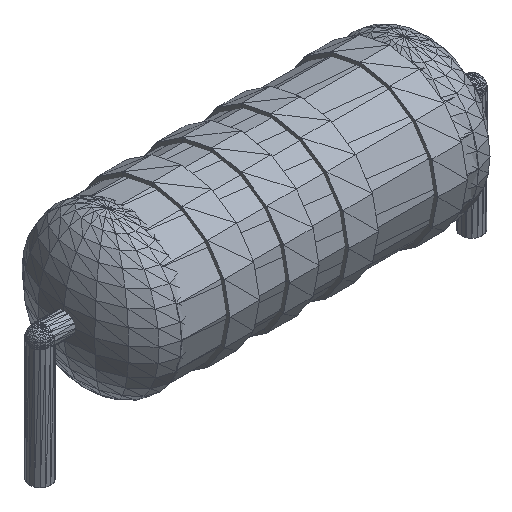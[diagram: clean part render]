
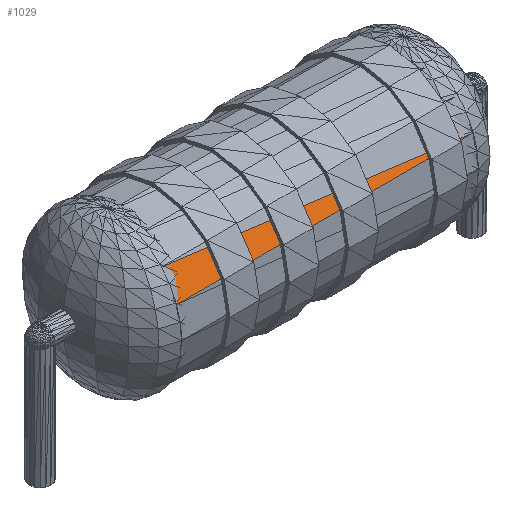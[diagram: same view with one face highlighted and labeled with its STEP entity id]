
A CAD part, isometric view. The second image highlights one B-rep face of the part: STEP entity #1029.
In plain terms, the highlighted planar face has unit normal (0, -0.832, 0.555) by its records, which use the part's own axes.
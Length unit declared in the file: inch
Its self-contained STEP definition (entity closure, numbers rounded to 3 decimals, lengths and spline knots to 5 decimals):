
#191=CARTESIAN_POINT('',(-0.36483,-0.12904,0.34776));
#192=VERTEX_POINT('',#191);
#214=CARTESIAN_POINT('',(-0.3648,-0.16857,0.28857));
#215=VERTEX_POINT('',#214);
#222=CARTESIAN_POINT('',(-0.3648,-0.16857,0.28857));
#223=DIRECTION('',(0.,0.555,0.832));
#224=VECTOR('',#223,0.07118);
#225=LINE('',#222,#224);
#226=EDGE_CURVE('',#215,#192,#225,.T.);
#583=CARTESIAN_POINT('',(0.3648,-0.16857,0.28871));
#584=VERTEX_POINT('',#583);
#1003=CARTESIAN_POINT('',(0.3648,-0.16857,0.28871));
#1004=DIRECTION('',(-0.995,0.054,0.081));
#1005=VECTOR('',#1004,0.73308);
#1006=LINE('',#1003,#1005);
#1007=EDGE_CURVE('',#584,#192,#1006,.T.);
#1014=CARTESIAN_POINT('',(0.3648,-0.16857,0.28871));
#1015=DIRECTION('',(0.,-0.832,0.555));
#1016=DIRECTION('',(1.,0.,0.));
#1017=AXIS2_PLACEMENT_3D('',#1014,#1015,#1016);
#1018=PLANE('',#1017);
#1019=ORIENTED_EDGE('',*,*,#1007,.T.);
#1020=ORIENTED_EDGE('',*,*,#226,.F.);
#1021=CARTESIAN_POINT('',(-0.3648,-0.16857,0.28857));
#1022=DIRECTION('',(1.,0.,0.));
#1023=VECTOR('',#1022,0.7296);
#1024=LINE('',#1021,#1023);
#1025=EDGE_CURVE('',#215,#584,#1024,.T.);
#1026=ORIENTED_EDGE('',*,*,#1025,.T.);
#1027=EDGE_LOOP('',(#1019,#1020,#1026));
#1028=FACE_BOUND('',#1027,.T.);
#1029=ADVANCED_FACE('',(#1028),#1018,.T.);
